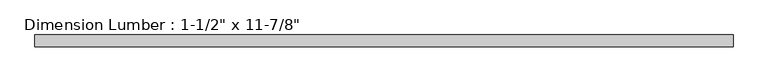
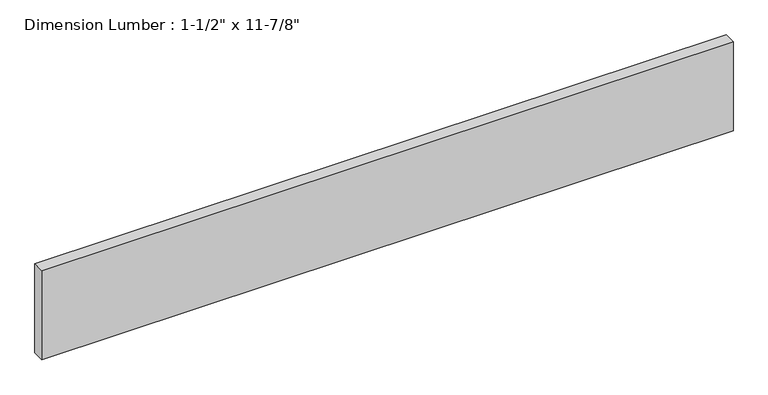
"""IFC4 building model written with IfcOpenShell, lengths in millimetres: beam geometry."""

import ifcopenshell
import ifcopenshell.guid

model = None  # the IFC model being written
_history = None  # IfcOwnerHistory: only IFC2X3 demands one
_inside = {}  # id of a spatial element -> (the spatial element, [elements in it])
_under = {}  # id of a project, library or spatial element -> (it, [spatial elements below it])
_declared = {}  # id of a project -> (the project, [libraries it declares])
_typed = {}  # id of a type object -> (the type object, [elements of that type])
_made_of = {}  # id of a material, layer set ... -> (it, [elements and type objects made of it])


def new_model(schema):
    """Start an empty IFC model of exactly this schema.

    Asked for "IFC4X3", IfcOpenShell would pick the latest addendum, in which some entities
    have other attributes; the version numbers below select the first issue.
    IFC2X3 requires an IfcOwnerHistory on every rooted entity: one is made here for all.
    """
    global model, _history
    if schema == "IFC4X3":
        model = ifcopenshell.file(schema_version=(4, 3, 0, 0))
    else:
        model = ifcopenshell.file(schema=schema)
    _inside.clear()
    _under.clear()
    _declared.clear()
    _typed.clear()
    _made_of.clear()
    _history = None
    if model.schema == "IFC2X3":
        org = make("IfcOrganization", Name="unknown")
        user = make(
            "IfcPersonAndOrganization",
            ThePerson=make("IfcPerson", FamilyName="unknown"),
            TheOrganization=org,
        )
        app = make(
            "IfcApplication",
            ApplicationDeveloper=org,
            Version="unknown",
            ApplicationFullName="unknown",
            ApplicationIdentifier="unknown",
        )
        _history = make(
            "IfcOwnerHistory",
            OwningUser=user,
            OwningApplication=app,
            ChangeAction="ADDED",
            CreationDate=0,
        )
    return model


def make(cls, **values):
    """One entity of the class cls with the attributes given. An attribute that is None is left unset."""
    return model.create_entity(
        cls, **{name: value for name, value in values.items() if value is not None}
    )


def rooted(cls, **values):
    """An entity with a GlobalId (a new one), such as an element, a storey or a relation."""
    return make(cls, GlobalId=ifcopenshell.guid.new(), OwnerHistory=_history, **values)


def si_unit(unit_type, name, prefix=None):
    """IfcSIUnit, for example si_unit("LENGTHUNIT", "METRE", prefix="MILLI")."""
    return make("IfcSIUnit", UnitType=unit_type, Prefix=prefix, Name=name)


def assignment(units):
    """IfcUnitAssignment: the units of a project."""
    return None if units is None else make("IfcUnitAssignment", Units=units)


def point(xyz):
    """IfcCartesianPoint."""
    return None if xyz is None else make("IfcCartesianPoint", Coordinates=xyz)


def direction(xyz):
    """IfcDirection."""
    return None if xyz is None else make("IfcDirection", DirectionRatios=xyz)


def frame(location, z_axis=None, x_axis=None):
    """IfcAxis2Placement3D, a coordinate frame: its origin and axes. An axis left out is left unset."""
    return make(
        "IfcAxis2Placement3D",
        Location=point(location),
        Axis=direction(z_axis),
        RefDirection=direction(x_axis),
    )


def origin():
    """The frame at (0, 0, 0) with its axes left unset."""
    return frame((0.0, 0.0, 0.0))


def place(relative_to, where):
    """IfcLocalPlacement: puts the frame where relative to a parent placement (None: the world)."""
    return make(
        "IfcLocalPlacement", PlacementRelTo=relative_to, RelativePlacement=where
    )


def context(
    kind, dimensions, precision=None, world=None, true_north=None, identifier=None
):
    """IfcGeometricRepresentationContext, for example the 3D "Model" context."""
    return make(
        "IfcGeometricRepresentationContext",
        ContextIdentifier=identifier,
        ContextType=kind,
        CoordinateSpaceDimension=dimensions,
        Precision=precision,
        WorldCoordinateSystem=world,
        TrueNorth=true_north,
    )


def project(units=None, contexts=None):
    """IfcProject with its units and contexts."""
    return rooted(
        "IfcProject",
        Name="project",
        RepresentationContexts=contexts,
        UnitsInContext=assignment(units),
    )


def spatial(cls, under=None, at=None, **own):
    """A site, building, storey or space (cls), placed at a placement, below another one or the project."""
    s = rooted(cls, ObjectPlacement=at, **own)
    if under is not None:
        _under.setdefault(under.id(), (under, []))[1].append(s)
    return s


def polyline(points):
    """IfcPolyline through the points."""
    return make("IfcPolyline", Points=[point(p) for p in points])


def outline(outer, holes=None, kind="AREA"):
    """IfcArbitraryClosedProfileDef: a profile drawn as a closed curve; with holes, ...WithVoids."""
    if holes is None:
        return make("IfcArbitraryClosedProfileDef", ProfileType=kind, OuterCurve=outer)
    return make(
        "IfcArbitraryProfileDefWithVoids",
        ProfileType=kind,
        OuterCurve=outer,
        InnerCurves=holes,
    )


def extrude(swept, where, along, depth):
    """IfcExtrudedAreaSolid: the profile swept, set in the frame where, extruded along a direction by depth."""
    return make(
        "IfcExtrudedAreaSolid",
        SweptArea=swept,
        Position=where,
        ExtrudedDirection=direction(along),
        Depth=depth,
    )


def shape(context_of_items, identifier, shape_type, items):
    """IfcShapeRepresentation: the items that make up one representation, for example the "Body"."""
    return make(
        "IfcShapeRepresentation",
        ContextOfItems=context_of_items,
        RepresentationIdentifier=identifier,
        RepresentationType=shape_type,
        Items=items,
    )


def source(mapping_origin, context_of_items, identifier, shape_type, items):
    """IfcRepresentationMap: a shape defined once, which mapped items show again and again."""
    return make(
        "IfcRepresentationMap",
        MappingOrigin=mapping_origin,
        MappedRepresentation=shape(context_of_items, identifier, shape_type, items),
    )


def transform(
    local_origin,
    x_axis=None,
    y_axis=None,
    z_axis=None,
    scale=None,
    scale2=None,
    scale3=None,
    uniform=True,
):
    """IfcCartesianTransformationOperator3D, or its non-uniform kind. x_axis, y_axis, z_axis: its Axis1, 2, 3."""
    if uniform:
        return make(
            "IfcCartesianTransformationOperator3D",
            Axis1=direction(x_axis),
            Axis2=direction(y_axis),
            LocalOrigin=point(local_origin),
            Scale=scale,
            Axis3=direction(z_axis),
        )
    return make(
        "IfcCartesianTransformationOperator3DnonUniform",
        Axis1=direction(x_axis),
        Axis2=direction(y_axis),
        LocalOrigin=point(local_origin),
        Scale=scale,
        Axis3=direction(z_axis),
        Scale2=scale2,
        Scale3=scale3,
    )


def mapped(mapping_source, mapping_target):
    """IfcMappedItem: shows the shape of a source again, moved by a transform."""
    return make(
        "IfcMappedItem", MappingSource=mapping_source, MappingTarget=mapping_target
    )


def made_of(thing, what):
    """Note that an element or type object is made of a material, layer set ...; save() writes the relation."""
    if what is not None:
        _made_of.setdefault(what.id(), (what, []))[1].append(thing)
    return thing


def element(
    cls,
    number,
    at=None,
    inside=None,
    cuts=None,
    type_object=None,
    material=None,
    context=None,
    identifier="Body",
    shape_type=None,
    held_by="IfcProductDefinitionShape",
    body=None,
    shapes=None,
    **own,
):
    """One element of the class cls, such as IfcWall. Its Tag is "e" and its number.

    at: its placement. inside: the storey or other place that contains it. cuts: it is an
    opening in that element (IfcRelVoidsElement). A single representation is given by context,
    identifier, shape_type and body (its items); several are given by shapes. held_by: the class
    of the entity that holds the representations. save() writes the other relations.
    """
    e = rooted(cls, Tag="e%d" % number, ObjectPlacement=at, **own)
    if body is not None:
        shapes = [shape(context, identifier, shape_type, body)]
    if shapes is not None:
        e.Representation = make(held_by, Representations=shapes)
    if inside is not None:
        _inside.setdefault(inside.id(), (inside, []))[1].append(e)
    if cuts is not None:
        rooted(
            "IfcRelVoidsElement", RelatingBuildingElement=cuts, RelatedOpeningElement=e
        )
    if type_object is not None:
        _typed.setdefault(type_object.id(), (type_object, []))[1].append(e)
    return made_of(e, material)


def aggregate(whole, parts):
    """IfcRelAggregates: a whole, such as a stair, and the parts it consists of."""
    return rooted("IfcRelAggregates", RelatingObject=whole, RelatedObjects=parts)


def save(model, path):
    """Write the relations noted so far, then the file.

    IfcRelAggregates (storeys below a building ...), IfcRelContainedInSpatialStructure (elements
    in a storey), IfcRelDefinesByType, IfcRelAssociatesMaterial and IfcRelDeclares: one each for
    every whole, place, type object, material and project.
    """
    for whole, parts in _under.values():
        aggregate(whole, parts)
    for where, things in _inside.values():
        rooted(
            "IfcRelContainedInSpatialStructure",
            RelatedElements=things,
            RelatingStructure=where,
        )
    for kind, things in _typed.values():
        rooted("IfcRelDefinesByType", RelatedObjects=things, RelatingType=kind)
    for what, things in _made_of.values():
        rooted("IfcRelAssociatesMaterial", RelatedObjects=things, RelatingMaterial=what)
    for by, libraries in _declared.values():
        rooted("IfcRelDeclares", RelatingContext=by, RelatedDefinitions=libraries)
    model.write(path)


def beam_00f6c308(model_context):
    return source(origin(), model_context, "Body", "SweptSolid", [
        extrude(outline(polyline([(1089.025, 19.05), (1089.025, -19.05), (-1127.125, -19.05), (-1127.125, 19.05), (1089.025, 19.05)])), frame((0.0, 0.0, -150.8125), z_axis=(0.0, 0.0, 1.0), x_axis=(1.0, 0.0, 0.0)), (0.0, 0.0, 1.0), 301.625),
    ])


if __name__ == "__main__":
    model = new_model("IFC4")
    model_context = context("Model", 3, world=origin())
    ifc_project = project(units=[si_unit("LENGTHUNIT", "METRE", prefix="MILLI")], contexts=[model_context])
    site = spatial("IfcSite", under=ifc_project)
    building = spatial("IfcBuilding", under=site)
    placement = place(None, origin())
    beam_shape = beam_00f6c308(model_context)
    element("IfcBeam", 1, ObjectType="Dimension Lumber : 1-1/2\" x 11-7/8\"", at=placement, inside=building, context=model_context, shape_type="MappedRepresentation", body=[
        mapped(beam_shape, transform((0.0, 0.0, 0.0), x_axis=(1.0, 0.0, 0.0), y_axis=(0.0, 1.0, 0.0), z_axis=(0.0, 0.0, 1.0))),
    ])
    save(model, "model.ifc")
